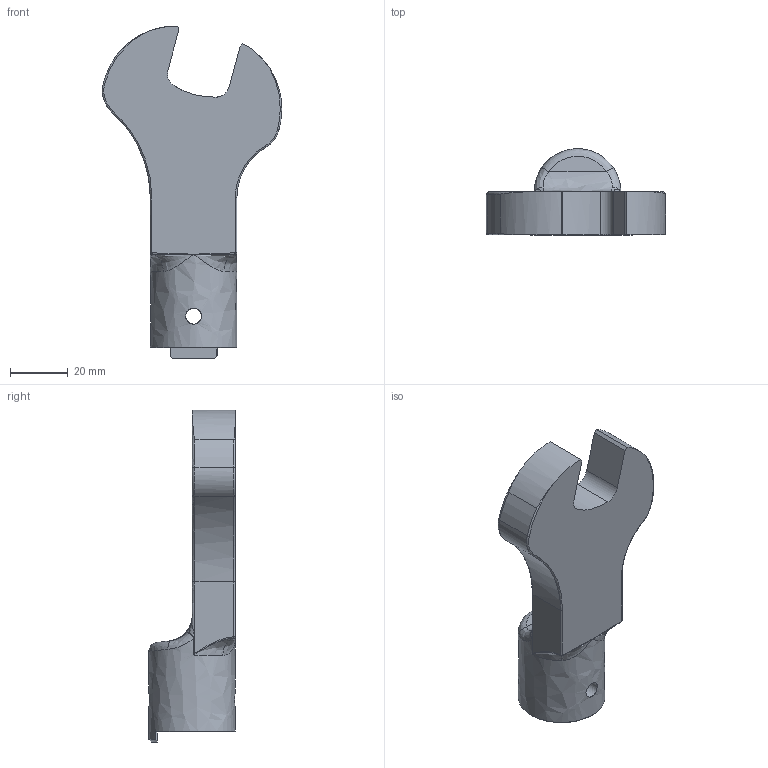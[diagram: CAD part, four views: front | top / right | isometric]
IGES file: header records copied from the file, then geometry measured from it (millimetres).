
Global section: file name: SH22DX22; native system: Autodesk Inventor 2016; preprocessor: unknown; author: Q600; date: 20151029.174245; units: millimetre
Bounding box: 62.18 x 30 x 115.12 mm (x, y, z)
Volume: 55622.9 mm3; surface area: 15053.6 mm2
Topology: 1 solids, 1 shells, 79 faces, 206 edges, 120 vertices
Faces by surface type: bspline 79
